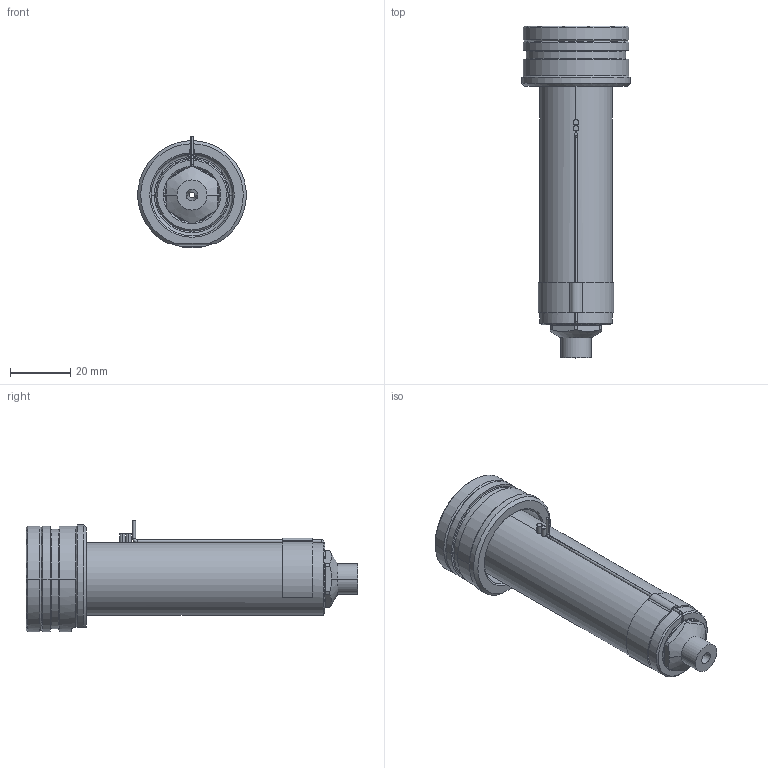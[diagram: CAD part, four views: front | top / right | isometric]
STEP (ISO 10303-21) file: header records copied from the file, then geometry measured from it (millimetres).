
FILE_DESCRIPTION((''),'2;1');
FILE_NAME('EO06_SG_SG_090_SW','2024-02-19T12:15:57',('sundharh'),(''),'CREO PARAMETRIC BY PTC INC, 2023154','CREO PARAMETRIC BY PTC INC, 2023154','');
FILE_SCHEMA(('CONFIG_CONTROL_DESIGN'));
Length unit declared in the file: millimetre
Products named in the file (1): EO06_SG_SG_090_SW
Bounding box: 35.93 x 110 x 37 mm (x, y, z)
Volume: 51641.9 mm3; surface area: 15449.6 mm2
Topology: 2 solids, 2 shells, 169 faces, 429 edges, 260 vertices
Faces by surface type: cylinder 68, plane 41, cone 30, torus 21, bspline 6, sphere 3
Entity records: 5776 total; most frequent: CARTESIAN_POINT 1652, DIRECTION 906, ORIENTED_EDGE 842, EDGE_CURVE 421, AXIS2_PLACEMENT_3D 378, VERTEX_POINT 260, CIRCLE 215, EDGE_LOOP 183
